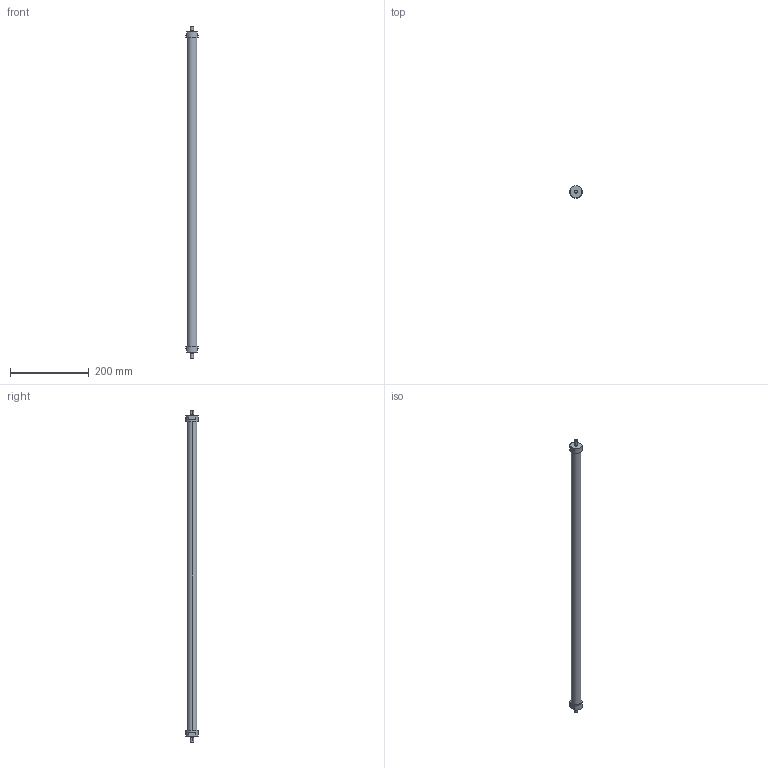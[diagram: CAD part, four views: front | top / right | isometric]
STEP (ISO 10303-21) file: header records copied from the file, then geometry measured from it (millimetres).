
FILE_DESCRIPTION(('STEP AP214'),'1');
FILE_NAME('ETT-R050N824.stp','2015-02-02T15:49:46',(' '),(' '),'Spatial InterOp 3D',' ',' ');
FILE_SCHEMA(('automotive_design'));
Length unit declared in the file: metre
Products named in the file (3): 1; 2; 3
Bounding box: 31 x 31 x 844 mm (x, y, z)
Volume: 407851.1 mm3; surface area: 67802.6 mm2
Topology: 1 solids, 7 shells, 30 faces, 81 edges, 63 vertices
Faces by surface type: plane 16, cylinder 14
Entity records: 1295 total; most frequent: DIRECTION 194, CARTESIAN_POINT 177, ORIENTED_EDGE 138, EDGE_CURVE 81, AXIS2_PLACEMENT_3D 80, VERTEX_POINT 63, CIRCLE 47, EDGE_LOOP 36
